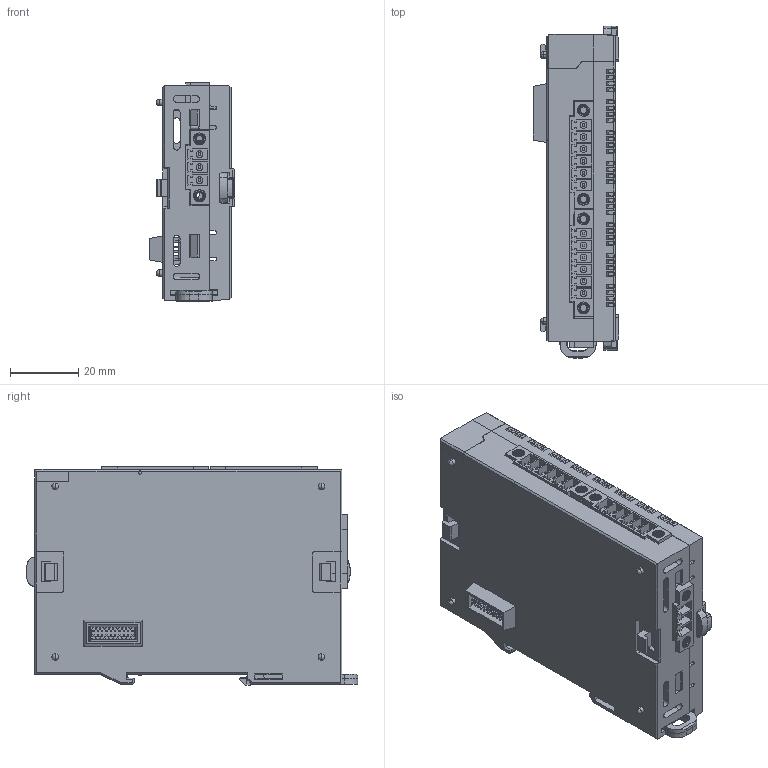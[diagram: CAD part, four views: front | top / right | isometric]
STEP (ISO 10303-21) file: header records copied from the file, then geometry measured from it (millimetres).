
FILE_DESCRIPTION (( 'STEP AP203' ), '1' );
FILE_NAME ('5.STEP', '2017-12-01T10:12:11', ( '' ), ( '' ), 'SwSTEP 2.0', 'SolidWorks 2017', '' );
FILE_SCHEMA (( 'CONFIG_CONTROL_DESIGN' ));
Length unit declared in the file: millimetre
Products named in the file (17): C-4; C-2; C-1; C; D; E; F; OQ02-155-10000G_3.5_6P_Anytek; Plsc pin 雖雖渠 20_BCP09311_Plcs holder_12.5; Connector_15EDGRM_3.81_03P_BCP22124_anytek; C-5; A; C-3; G; B; Insert_M2.5; 5
Assembly tree (23 placements, depth 4):
  5
    A
    B
    C
      C-1
      C-2
      C-3
        Plsc pin 雖雖渠 20_BCP09311_Plcs holder_12.5  x2
      C-4
        Connector_15EDGRM_3.81_03P_BCP22124_anytek
        Insert_M2.5  x2
      C-5  x2
        OQ02-155-10000G_3.5_6P_Anytek
        Insert_M2.5
    D  x2
    E  x2
    F
    G
Bounding box: 25 x 97.2 x 63.9 mm (x, y, z)
Volume: 33547.8 mm3; surface area: 52109 mm2
Topology: 21 solids, 21 shells, 5036 faces, 13899 edges, 8982 vertices
Faces by surface type: plane 3951, cylinder 902, cone 92, bspline 65, torus 14, sphere 12
Entity records: 115631 total; most frequent: CARTESIAN_POINT 24152, ORIENTED_EDGE 19386, DIRECTION 17181, EDGE_CURVE 9693, LINE 8571, VECTOR 8571, VERTEX_POINT 6243, AXIS2_PLACEMENT_3D 4305
